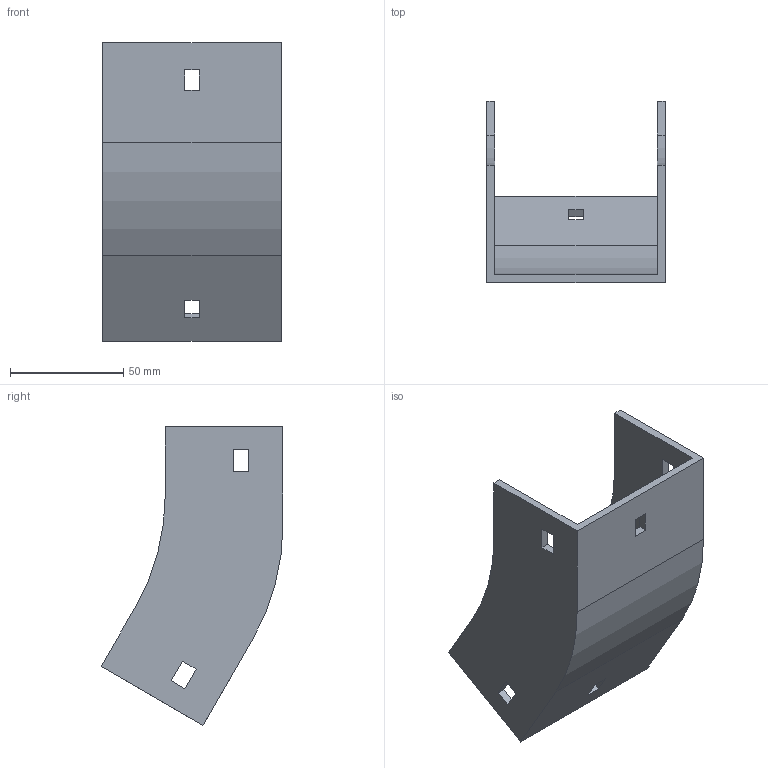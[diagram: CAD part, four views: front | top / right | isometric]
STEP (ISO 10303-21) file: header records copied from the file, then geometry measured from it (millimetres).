
FILE_DESCRIPTION (( 'STEP AP214' ), '1' );
FILE_NAME ('32F1B075.step', '2025-02-21T12:57:54', ( '' ), ( '' ), 'SwSTEP 2.0', 'SolidWorks 2023', '' );
FILE_SCHEMA (( 'AUTOMOTIVE_DESIGN' ));
Length unit declared in the file: millimetre
Products named in the file (1): 32F1B075
Bounding box: 79 x 80.4 x 131.98 mm (x, y, z)
Volume: 80135.1 mm3; surface area: 48509.4 mm2
Topology: 1 solids, 1 shells, 42 faces, 120 edges, 80 vertices
Faces by surface type: plane 38, cylinder 4
Entity records: 1399 total; most frequent: CARTESIAN_POINT 243, ORIENTED_EDGE 240, DIRECTION 214, EDGE_CURVE 120, VECTOR 112, LINE 112, VERTEX_POINT 80, EDGE_LOOP 54
